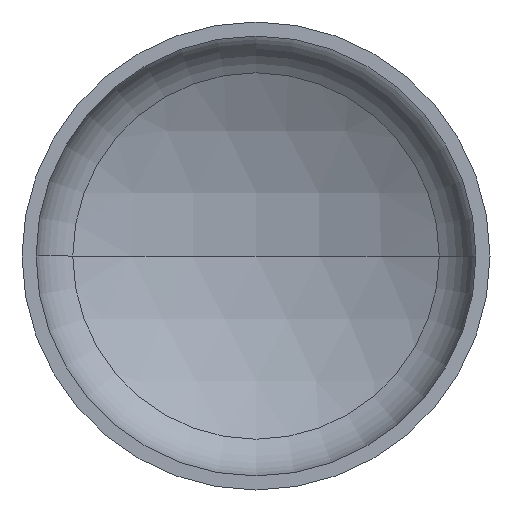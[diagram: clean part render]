
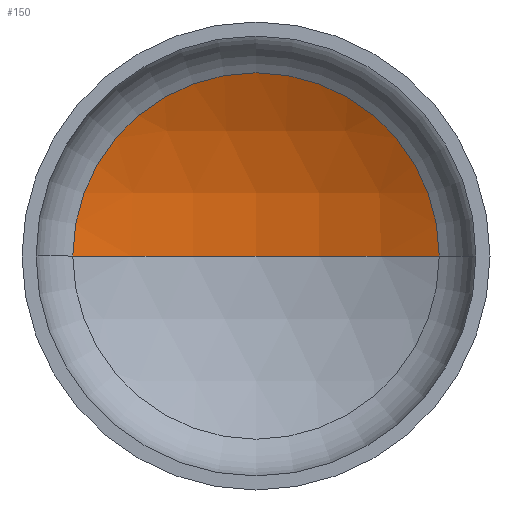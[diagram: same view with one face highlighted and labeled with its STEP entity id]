
A CAD part, front view. The second image highlights one B-rep face of the part: STEP entity #150.
In plain terms, the highlighted spherical face has radius 1040 mm.
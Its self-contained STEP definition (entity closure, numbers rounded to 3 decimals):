
#1 = ORIENTED_EDGE ( 'NONE', *, *, #202, .T. ) ;
#28 = EDGE_LOOP ( 'NONE', ( #89, #44, #1 ) ) ;
#44 = ORIENTED_EDGE ( 'NONE', *, *, #220, .T. ) ;
#51 = AXIS2_PLACEMENT_3D ( 'NONE', #305, #304, #303 ) ;
#57 = AXIS2_PLACEMENT_3D ( 'NONE', #399, #400, #376 ) ;
#62 = AXIS2_PLACEMENT_3D ( 'NONE', #185, #187, #370 ) ;
#71 = AXIS2_PLACEMENT_3D ( 'NONE', #261, #409, #395 ) ;
#89 = ORIENTED_EDGE ( 'NONE', *, *, #235, .F. ) ;
#102 = VERTEX_POINT ( 'NONE', #350 ) ;
#112 = VERTEX_POINT ( 'NONE', #280 ) ;
#128 = VERTEX_POINT ( 'NONE', #301 ) ;
#150 = ADVANCED_FACE ( 'NONE', ( #291 ), #232, .F. ) ;
#185 = CARTESIAN_POINT ( 'NONE',  ( 0., -612.584, 0. ) ) ;
#187 = DIRECTION ( 'NONE',  ( 0., 0., -1. ) ) ;
#202 = EDGE_CURVE ( 'NONE', #128, #102, #343, .T. ) ;
#218 = CIRCLE ( 'NONE', #62, 1040. ) ;
#220 = EDGE_CURVE ( 'NONE', #112, #128, #218, .T. ) ;
#232 = SPHERICAL_SURFACE ( 'NONE', #71, 1040. ) ;
#235 = EDGE_CURVE ( 'NONE', #112, #102, #335, .T. ) ;
#261 = CARTESIAN_POINT ( 'NONE',  ( 0., -612.584, 0. ) ) ;
#280 = CARTESIAN_POINT ( 'NONE',  ( 0., 427.416, 0. ) ) ;
#291 = FACE_OUTER_BOUND ( 'NONE', #28, .T. ) ;
#301 = CARTESIAN_POINT ( 'NONE',  ( 508.857, 294.425, 0. ) ) ;
#303 = DIRECTION ( 'NONE',  ( 1., 0., 0. ) ) ;
#304 = DIRECTION ( 'NONE',  ( 0., 0., 1. ) ) ;
#305 = CARTESIAN_POINT ( 'NONE',  ( 0., -612.584, 0. ) ) ;
#335 = CIRCLE ( 'NONE', #51, 1040. ) ;
#343 = CIRCLE ( 'NONE', #57, 508.857 ) ;
#350 = CARTESIAN_POINT ( 'NONE',  ( -508.857, 294.425, 0. ) ) ;
#370 = DIRECTION ( 'NONE',  ( -1., 0., 0. ) ) ;
#376 = DIRECTION ( 'NONE',  ( 1., 0., 0. ) ) ;
#395 = DIRECTION ( 'NONE',  ( -1., 0., 0. ) ) ;
#399 = CARTESIAN_POINT ( 'NONE',  ( 0., 294.425, 0. ) ) ;
#400 = DIRECTION ( 'NONE',  ( 0., -1., 0. ) ) ;
#409 = DIRECTION ( 'NONE',  ( 0., 0., -1. ) ) ;
